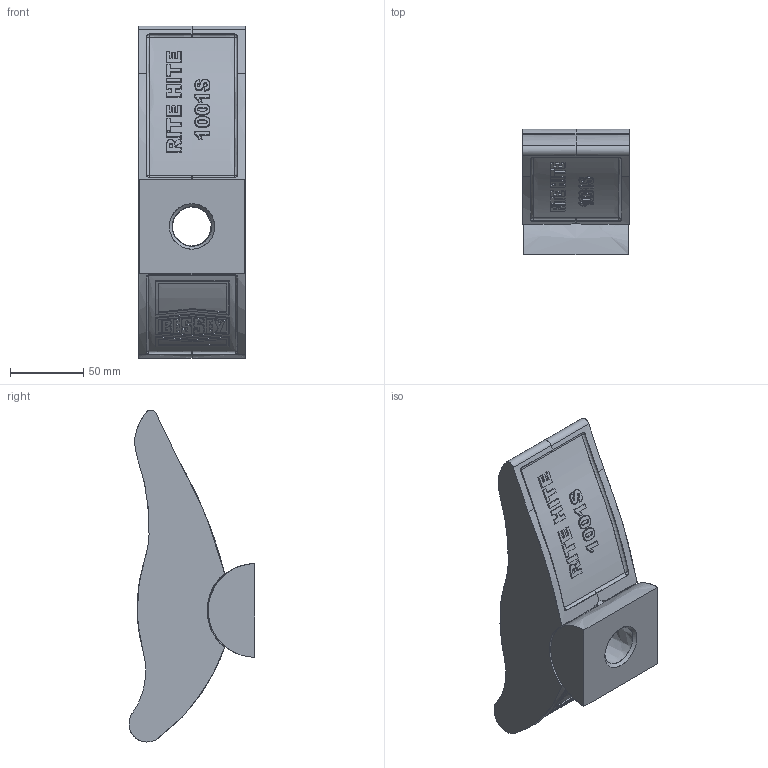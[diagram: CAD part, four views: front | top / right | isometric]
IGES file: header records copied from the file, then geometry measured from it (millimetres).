
Start section: ZWSOFT
Global section: file name: 1001S.igs; native system: ZW3D; preprocessor: 1.0; author: ZW3D; organization: ZWSOFT; date: 121026.090404; units: millimetre
Bounding box: 73 x 86.09 x 226.88 mm (x, y, z)
Surface area: 80920.2 mm2 (no closed solid volume)
Topology: 0 solids, 0 shells, 424 faces, 2525 edges, 2791 vertices
Faces by surface type: bspline 424
